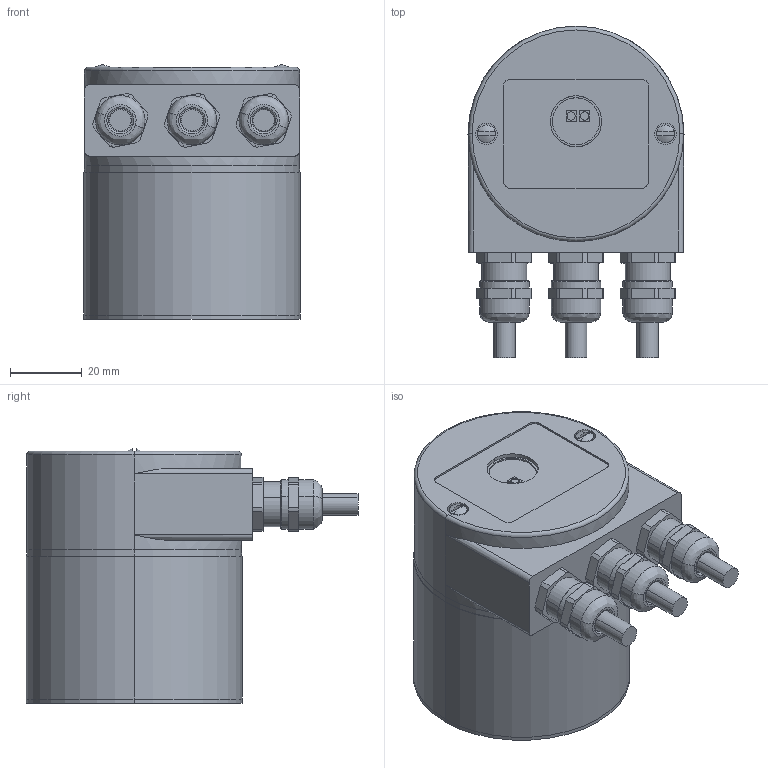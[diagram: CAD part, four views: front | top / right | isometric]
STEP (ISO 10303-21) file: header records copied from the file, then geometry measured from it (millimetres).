
FILE_DESCRIPTION (( 'STEP AP203' ), '1' );
FILE_NAME ('Drawing-OC-6-TC-430-2NM-HCCNNN-Y-H3P-N-new version.STEP', '2013-09-24T09:59:39', ( 'Admin' ), ( 'Microsoft' ), 'SwSTEP 2.0', 'SolidWorks 2006104', '' );
FILE_SCHEMA (( 'CONFIG_CONTROL_DESIGN' ));
Length unit declared in the file: millimetre
Products named in the file (1): Drawing-OC-6-TC-430-2NM-HCCNNN-Y-H3P-N-new version
Bounding box: 60.3 x 92.65 x 70.9 mm (x, y, z)
Surface area: 40855.4 mm2 (no closed solid volume)
Topology: 0 solids, 17 shells, 253 faces, 833 edges, 601 vertices
Faces by surface type: plane 110, cylinder 97, cone 28, bspline 12, torus 6
Entity records: 9837 total; most frequent: CARTESIAN_POINT 2482, DIRECTION 1538, ORIENTED_EDGE 1360, EDGE_CURVE 833, VERTEX_POINT 601, AXIS2_PLACEMENT_3D 525, LINE 488, VECTOR 488
